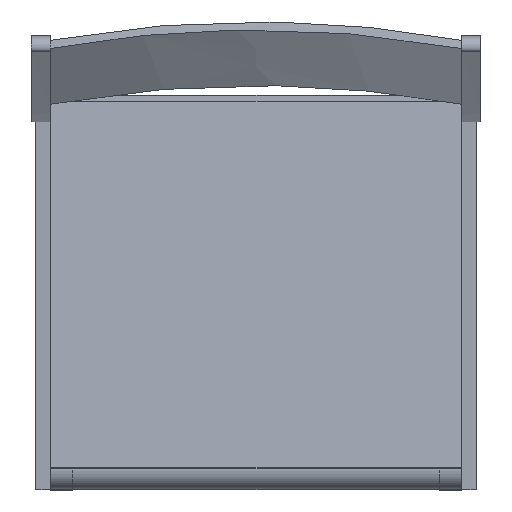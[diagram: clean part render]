
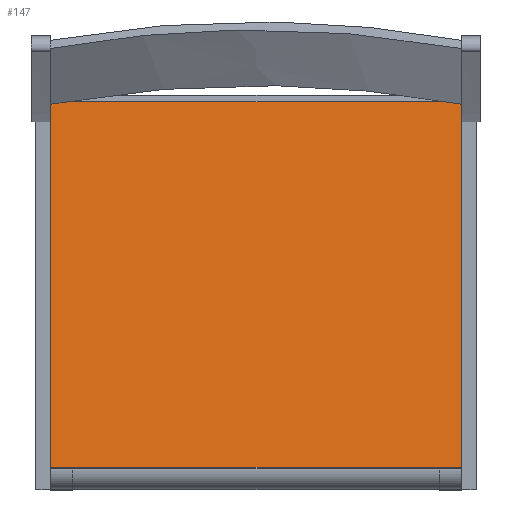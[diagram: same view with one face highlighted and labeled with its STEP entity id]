
A CAD part, top view. The second image highlights one B-rep face of the part: STEP entity #147.
In plain terms, the highlighted planar face has unit normal (0, 0.103, 0.995).
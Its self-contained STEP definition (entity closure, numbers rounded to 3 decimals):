
#147=ADVANCED_FACE('',(#226),#1164,.T.);
#226=FACE_OUTER_BOUND('',#305,.T.);
#305=EDGE_LOOP('',(#624,#625,#626,#627));
#624=ORIENTED_EDGE('',*,*,#811,.T.);
#625=ORIENTED_EDGE('',*,*,#804,.F.);
#626=ORIENTED_EDGE('',*,*,#812,.T.);
#627=ORIENTED_EDGE('',*,*,#809,.F.);
#804=EDGE_CURVE('',#1094,#1091,#969,.T.);
#809=EDGE_CURVE('',#1097,#1098,#974,.T.);
#811=EDGE_CURVE('',#1097,#1091,#976,.T.);
#812=EDGE_CURVE('',#1094,#1098,#977,.T.);
#969=B_SPLINE_CURVE_WITH_KNOTS('',1,(#2097,#2098),.UNSPECIFIED.,.F.,.F.,
(2,2),(0.,550.),.UNSPECIFIED.);
#974=B_SPLINE_CURVE_WITH_KNOTS('',1,(#2107,#2108),.UNSPECIFIED.,.F.,.F.,
(2,2),(0.,550.),.UNSPECIFIED.);
#976=B_SPLINE_CURVE_WITH_KNOTS('',1,(#2111,#2112),.UNSPECIFIED.,.F.,.F.,
(2,2),(0.,491.914),.UNSPECIFIED.);
#977=B_SPLINE_CURVE_WITH_KNOTS('',1,(#2113,#2114),.UNSPECIFIED.,.F.,.F.,
(2,2),(0.,491.914),.UNSPECIFIED.);
#1091=VERTEX_POINT('',#2083);
#1094=VERTEX_POINT('',#2086);
#1097=VERTEX_POINT('',#2089);
#1098=VERTEX_POINT('',#2090);
#1164=PLANE('',#1331);
#1331=AXIS2_PLACEMENT_3D('',#2080,#1407,$);
#1407=DIRECTION('',(0.,0.103,0.995));
#2080=CARTESIAN_POINT('',(-330.012,255.522,293.13));
#2083=CARTESIAN_POINT('',(275.,206.578,298.186));
#2086=CARTESIAN_POINT('',(-275.,206.578,298.186));
#2089=CARTESIAN_POINT('',(275.,-282.733,348.727));
#2090=CARTESIAN_POINT('',(-275.,-282.733,348.727));
#2097=CARTESIAN_POINT('',(-275.,206.578,298.186));
#2098=CARTESIAN_POINT('',(275.,206.578,298.186));
#2107=CARTESIAN_POINT('',(275.,-282.733,348.727));
#2108=CARTESIAN_POINT('',(-275.,-282.733,348.727));
#2111=CARTESIAN_POINT('',(275.,-282.733,348.727));
#2112=CARTESIAN_POINT('',(275.,206.578,298.186));
#2113=CARTESIAN_POINT('',(-275.,206.578,298.186));
#2114=CARTESIAN_POINT('',(-275.,-282.733,348.727));
